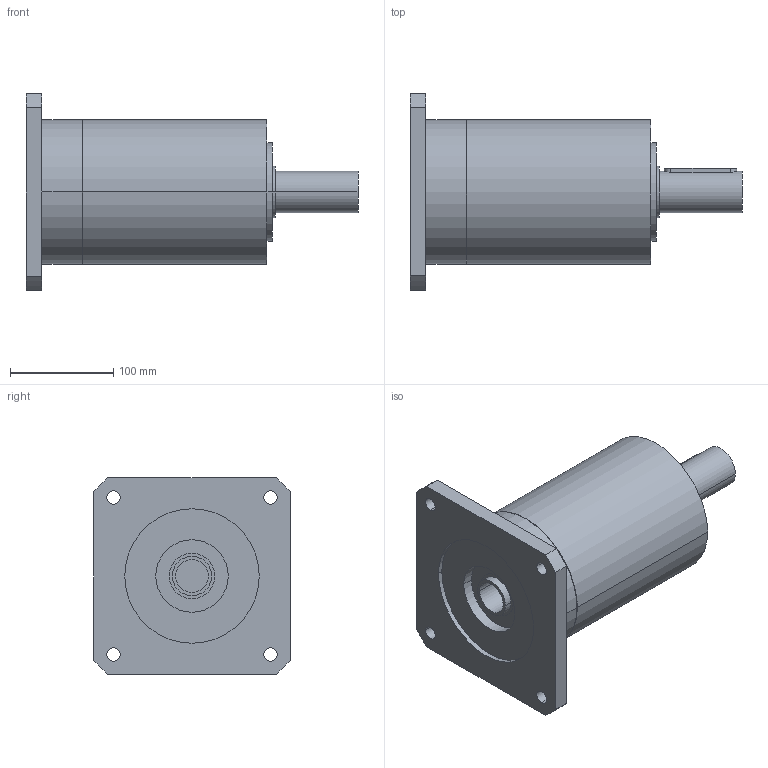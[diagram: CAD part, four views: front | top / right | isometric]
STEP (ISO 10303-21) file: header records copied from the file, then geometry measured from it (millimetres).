
FILE_DESCRIPTION(('CoCreate Modeling STEP Export'),'2;1');
FILE_NAME('GPR150_ig-9-12-16-20-28-35_40_B14_32_P13.stp','2014-08-19T17:04:05',(''),(''),'CoCreate Modeling STEP processor for AP214 (Solid Model)','CoCreate Modeling 16.00C 25-Feb-2009 (C) Parametric Technology GmbH','');
FILE_SCHEMA(('AUTOMOTIVE_DESIGN { 1 0 10303 214 1 1 1 1 }'));
Length unit declared in the file: millimetre
Products named in the file (2): GPR150_ig-9-12-16-20-28-35_40_B14_32_P13
Assembly tree (1 placements, depth 2):
  GPR150_ig-9-12-16-20-28-35_40_B14_32_P13
    GPR150_ig-9-12-16-20-28-35_40_B14_32_P13
Bounding box: 321 x 190 x 190 mm (x, y, z)
Volume: 3861171.6 mm3; surface area: 210502 mm2
Topology: 1 solids, 1 shells, 73 faces, 195 edges, 137 vertices
Faces by surface type: cylinder 44, plane 23, cone 6
Entity records: 2033 total; most frequent: CARTESIAN_POINT 395, ORIENTED_EDGE 386, DIRECTION 272, EDGE_CURVE 193, VERTEX_POINT 137, AXIS2_PLACEMENT_3D 102, EDGE_LOOP 96, FACE_OUTER_BOUND 73
